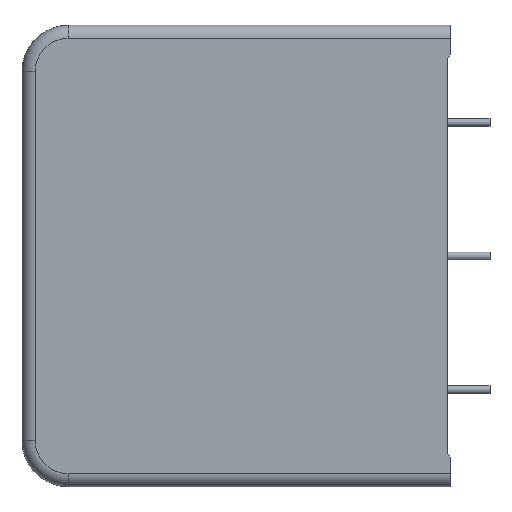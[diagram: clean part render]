
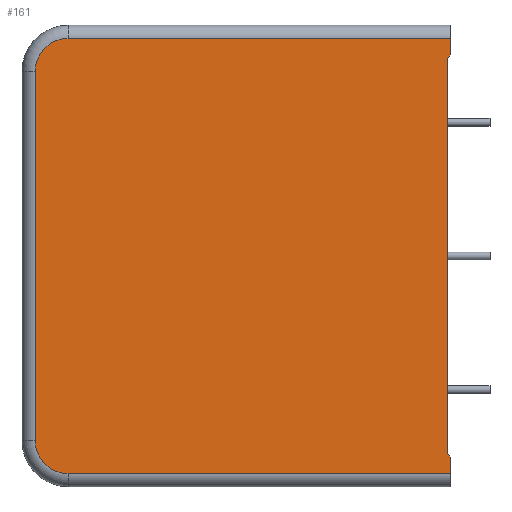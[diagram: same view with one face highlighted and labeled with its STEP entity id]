
A CAD part, left-side view. The second image highlights one B-rep face of the part: STEP entity #161.
In plain terms, the highlighted planar face has unit normal (-1, 0, 0).
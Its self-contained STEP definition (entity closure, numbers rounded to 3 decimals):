
#161 = ADVANCED_FACE ( 'NONE', ( #2828 ), #947, .F. ) ;
#218 = VECTOR ( 'NONE', #3662, 1000. ) ;
#277 = VECTOR ( 'NONE', #1132, 1000. ) ;
#414 = DIRECTION ( 'NONE',  ( 0., 0., -1. ) ) ;
#465 = LINE ( 'NONE', #1650, #218 ) ;
#471 = VECTOR ( 'NONE', #1424, 1000. ) ;
#481 = CARTESIAN_POINT ( 'NONE',  ( -28.75, 0., -35. ) ) ;
#500 = CARTESIAN_POINT ( 'NONE',  ( -28.75, 63., -28. ) ) ;
#544 = CARTESIAN_POINT ( 'NONE',  ( -28.75, 0., 30.5 ) ) ;
#734 = LINE ( 'NONE', #2618, #4348 ) ;
#751 = DIRECTION ( 'NONE',  ( 0., 0.707, 0.707 ) ) ;
#880 = EDGE_LOOP ( 'NONE', ( #3019, #3028, #3069, #3078, #3086, #3102, #3119, #3147, #3152, #3161 ) ) ;
#905 = DIRECTION ( 'NONE',  ( 0., 0., -1. ) ) ;
#910 = DIRECTION ( 'NONE',  ( 1., 0., 0. ) ) ;
#936 = AXIS2_PLACEMENT_3D ( 'NONE', #4098, #2089, #4410 ) ;
#947 = PLANE ( 'NONE',  #2348 ) ;
#1019 = CARTESIAN_POINT ( 'NONE',  ( -28.75, 65., -35. ) ) ;
#1043 = AXIS2_PLACEMENT_3D ( 'NONE', #1096, #3547, #1483 ) ;
#1096 = CARTESIAN_POINT ( 'NONE',  ( -28.75, 58., -28. ) ) ;
#1132 = DIRECTION ( 'NONE',  ( 0., 0., 1. ) ) ;
#1391 = LINE ( 'NONE', #3570, #277 ) ;
#1424 = DIRECTION ( 'NONE',  ( 0., -1., 0. ) ) ;
#1483 = DIRECTION ( 'NONE',  ( 0., 0., -1. ) ) ;
#1618 = CIRCLE ( 'NONE', #936, 5. ) ;
#1650 = CARTESIAN_POINT ( 'NONE',  ( -28.75, 0., -35. ) ) ;
#1728 = LINE ( 'NONE', #2350, #3453 ) ;
#1883 = VERTEX_POINT ( 'NONE', #3193 ) ;
#1892 = LINE ( 'NONE', #2647, #3586 ) ;
#1938 = VERTEX_POINT ( 'NONE', #2195 ) ;
#2089 = DIRECTION ( 'NONE',  ( -1., 0., 0. ) ) ;
#2195 = CARTESIAN_POINT ( 'NONE',  ( -28.75, 0., -33. ) ) ;
#2334 = VERTEX_POINT ( 'NONE', #2338 ) ;
#2338 = CARTESIAN_POINT ( 'NONE',  ( -28.75, 0.5, -30. ) ) ;
#2348 = AXIS2_PLACEMENT_3D ( 'NONE', #1019, #910, #905 ) ;
#2350 = CARTESIAN_POINT ( 'NONE',  ( -28.75, 63., -28. ) ) ;
#2355 = CARTESIAN_POINT ( 'NONE',  ( -28.75, 0.5, 30. ) ) ;
#2367 = CARTESIAN_POINT ( 'NONE',  ( -28.75, 0., 33. ) ) ;
#2382 = VERTEX_POINT ( 'NONE', #2355 ) ;
#2393 = VERTEX_POINT ( 'NONE', #2696 ) ;
#2432 = VERTEX_POINT ( 'NONE', #2367 ) ;
#2454 = LINE ( 'NONE', #481, #4109 ) ;
#2520 = VERTEX_POINT ( 'NONE', #4074 ) ;
#2552 = VERTEX_POINT ( 'NONE', #2792 ) ;
#2553 = VERTEX_POINT ( 'NONE', #500 ) ;
#2605 = VERTEX_POINT ( 'NONE', #2807 ) ;
#2618 = CARTESIAN_POINT ( 'NONE',  ( -28.75, 65., 33. ) ) ;
#2647 = CARTESIAN_POINT ( 'NONE',  ( -28.75, 0.5, -30. ) ) ;
#2680 = VECTOR ( 'NONE', #2825, 1000. ) ;
#2696 = CARTESIAN_POINT ( 'NONE',  ( -28.75, 0., 30.5 ) ) ;
#2765 = EDGE_CURVE ( 'NONE', #2605, #1938, #4256, .T. ) ;
#2792 = CARTESIAN_POINT ( 'NONE',  ( -28.75, 63., 28. ) ) ;
#2807 = CARTESIAN_POINT ( 'NONE',  ( -28.75, 58., -33. ) ) ;
#2825 = DIRECTION ( 'NONE',  ( 0., -0.707, 0.707 ) ) ;
#2828 = FACE_OUTER_BOUND ( 'NONE', #880, .T. ) ;
#2983 = EDGE_CURVE ( 'NONE', #2553, #2605, #3010, .T. ) ;
#3010 = CIRCLE ( 'NONE', #1043, 5. ) ;
#3019 = ORIENTED_EDGE ( 'NONE', *, *, #3333, .T. ) ;
#3028 = ORIENTED_EDGE ( 'NONE', *, *, #4474, .T. ) ;
#3069 = ORIENTED_EDGE ( 'NONE', *, *, #4267, .T. ) ;
#3078 = ORIENTED_EDGE ( 'NONE', *, *, #4056, .T. ) ;
#3086 = ORIENTED_EDGE ( 'NONE', *, *, #3845, .T. ) ;
#3102 = ORIENTED_EDGE ( 'NONE', *, *, #3613, .T. ) ;
#3119 = ORIENTED_EDGE ( 'NONE', *, *, #3419, .T. ) ;
#3147 = ORIENTED_EDGE ( 'NONE', *, *, #3199, .T. ) ;
#3152 = ORIENTED_EDGE ( 'NONE', *, *, #2983, .T. ) ;
#3161 = ORIENTED_EDGE ( 'NONE', *, *, #2765, .T. ) ;
#3193 = CARTESIAN_POINT ( 'NONE',  ( -28.75, 0., -30.5 ) ) ;
#3199 = EDGE_CURVE ( 'NONE', #2552, #2553, #1728, .T. ) ;
#3333 = EDGE_CURVE ( 'NONE', #1938, #1883, #2454, .T. ) ;
#3419 = EDGE_CURVE ( 'NONE', #2520, #2552, #1618, .T. ) ;
#3453 = VECTOR ( 'NONE', #414, 1000. ) ;
#3487 = CARTESIAN_POINT ( 'NONE',  ( -28.75, 65., -33. ) ) ;
#3547 = DIRECTION ( 'NONE',  ( -1., 0., 0. ) ) ;
#3548 = LINE ( 'NONE', #544, #2680 ) ;
#3570 = CARTESIAN_POINT ( 'NONE',  ( -28.75, 0.5, 30. ) ) ;
#3586 = VECTOR ( 'NONE', #751, 1000. ) ;
#3613 = EDGE_CURVE ( 'NONE', #2432, #2520, #734, .T. ) ;
#3662 = DIRECTION ( 'NONE',  ( 0., 0., 1. ) ) ;
#3845 = EDGE_CURVE ( 'NONE', #2393, #2432, #465, .T. ) ;
#4056 = EDGE_CURVE ( 'NONE', #2382, #2393, #3548, .T. ) ;
#4074 = CARTESIAN_POINT ( 'NONE',  ( -28.75, 58., 33. ) ) ;
#4098 = CARTESIAN_POINT ( 'NONE',  ( -28.75, 58., 28. ) ) ;
#4109 = VECTOR ( 'NONE', #4368, 1000. ) ;
#4243 = DIRECTION ( 'NONE',  ( 0., 1., 0. ) ) ;
#4256 = LINE ( 'NONE', #3487, #471 ) ;
#4267 = EDGE_CURVE ( 'NONE', #2334, #2382, #1391, .T. ) ;
#4348 = VECTOR ( 'NONE', #4243, 1000. ) ;
#4368 = DIRECTION ( 'NONE',  ( 0., 0., 1. ) ) ;
#4410 = DIRECTION ( 'NONE',  ( 0., 0., -1. ) ) ;
#4474 = EDGE_CURVE ( 'NONE', #1883, #2334, #1892, .T. ) ;
